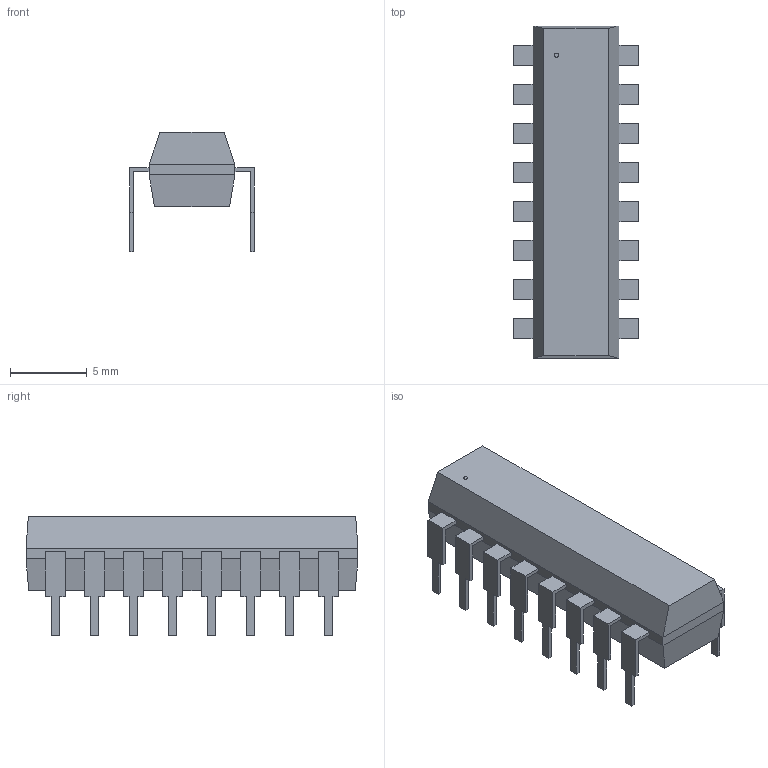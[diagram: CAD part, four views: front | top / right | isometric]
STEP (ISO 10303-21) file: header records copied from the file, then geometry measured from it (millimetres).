
FILE_DESCRIPTION(('STEP AP214'),'1');
FILE_NAME('DIP16_300','2026-03-23T01:43:26',(''),(''),'','','');
FILE_SCHEMA(('AUTOMOTIVE_DESIGN'));
Length unit declared in the file: millimetre
Products named in the file (1): product
Bounding box: 8.13 x 21.59 x 7.75 mm (x, y, z)
Volume: 557.8 mm3; surface area: 730.4 mm2
Topology: 18 solids, 18 shells, 209 faces, 511 edges, 338 vertices
Faces by surface type: plane 208, cylinder 1
Full cylindrical faces by diameter (mm): 0.279 x1
Entity records: 5837 total; most frequent: ORIENTED_EDGE 1020, DIRECTION 934, CARTESIAN_POINT 551, EDGE_CURVE 510, LINE 508, VECTOR 508, VERTEX_POINT 338, AXIS2_PLACEMENT_3D 213
